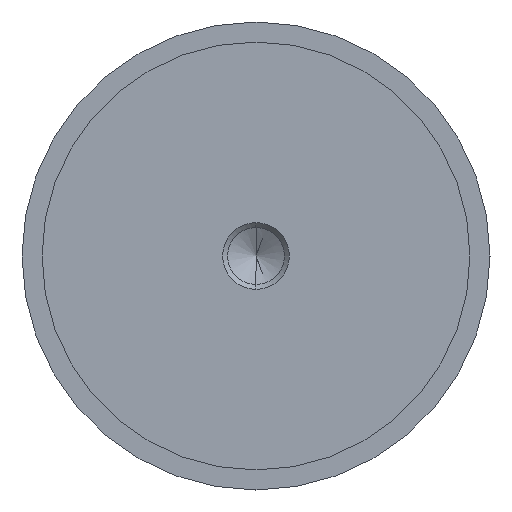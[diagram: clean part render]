
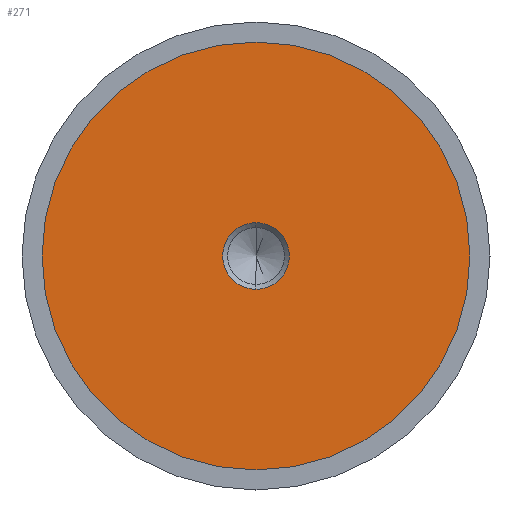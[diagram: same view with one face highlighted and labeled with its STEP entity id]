
A CAD part, left-side view. The second image highlights one B-rep face of the part: STEP entity #271.
In plain terms, the highlighted planar face has unit normal (-1, 0, 0).
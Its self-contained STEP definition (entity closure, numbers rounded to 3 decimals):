
#9 = ORIENTED_EDGE ( 'NONE', *, *, #734, .T. ) ;
#34 = CARTESIAN_POINT ( 'NONE',  ( -24.99, 0., 0. ) ) ;
#40 = CARTESIAN_POINT ( 'NONE',  ( -24.99, 0., -32. ) ) ;
#45 = EDGE_CURVE ( 'NONE', #307, #422, #603, .T. ) ;
#46 = DIRECTION ( 'NONE',  ( 0., 0., -1. ) ) ;
#91 = CARTESIAN_POINT ( 'NONE',  ( -24.99, 0., 0. ) ) ;
#112 = FACE_OUTER_BOUND ( 'NONE', #467, .T. ) ;
#134 = DIRECTION ( 'NONE',  ( 0., 0., -1. ) ) ;
#161 = ORIENTED_EDGE ( 'NONE', *, *, #767, .T. ) ;
#189 = PLANE ( 'NONE',  #642 ) ;
#212 = DIRECTION ( 'NONE',  ( 0., 0., 1. ) ) ;
#254 = EDGE_LOOP ( 'NONE', ( #9, #538 ) ) ;
#271 = ADVANCED_FACE ( 'NONE', ( #361, #112 ), #189, .F. ) ;
#285 = CARTESIAN_POINT ( 'NONE',  ( -24.99, 0., -4.99 ) ) ;
#307 = VERTEX_POINT ( 'NONE', #443 ) ;
#315 = CARTESIAN_POINT ( 'NONE',  ( -24.99, 0., 4.99 ) ) ;
#345 = CARTESIAN_POINT ( 'NONE',  ( -24.99, 32., 0. ) ) ;
#356 = CIRCLE ( 'NONE', #684, 32. ) ;
#361 = FACE_BOUND ( 'NONE', #254, .T. ) ;
#386 = CARTESIAN_POINT ( 'NONE',  ( -24.99, 0., 0. ) ) ;
#391 = DIRECTION ( 'NONE',  ( -1., 0., 0. ) ) ;
#392 = AXIS2_PLACEMENT_3D ( 'NONE', #34, #391, #764 ) ;
#416 = DIRECTION ( 'NONE',  ( 0., 0., -1. ) ) ;
#422 = VERTEX_POINT ( 'NONE', #40 ) ;
#434 = VERTEX_POINT ( 'NONE', #285 ) ;
#442 = DIRECTION ( 'NONE',  ( 1., 0., 0. ) ) ;
#443 = CARTESIAN_POINT ( 'NONE',  ( -24.99, 0., 32. ) ) ;
#449 = ORIENTED_EDGE ( 'NONE', *, *, #45, .T. ) ;
#450 = AXIS2_PLACEMENT_3D ( 'NONE', #386, #568, #416 ) ;
#453 = DIRECTION ( 'NONE',  ( -1., 0., 0. ) ) ;
#467 = EDGE_LOOP ( 'NONE', ( #449, #161 ) ) ;
#491 = AXIS2_PLACEMENT_3D ( 'NONE', #564, #442, #134 ) ;
#502 = CIRCLE ( 'NONE', #450, 4.99 ) ;
#538 = ORIENTED_EDGE ( 'NONE', *, *, #581, .T. ) ;
#564 = CARTESIAN_POINT ( 'NONE',  ( -24.99, 0., 0. ) ) ;
#568 = DIRECTION ( 'NONE',  ( 1., 0., 0. ) ) ;
#581 = EDGE_CURVE ( 'NONE', #434, #731, #502, .T. ) ;
#582 = DIRECTION ( 'NONE',  ( 1., 0., 0. ) ) ;
#603 = CIRCLE ( 'NONE', #392, 32. ) ;
#607 = CIRCLE ( 'NONE', #491, 4.99 ) ;
#642 = AXIS2_PLACEMENT_3D ( 'NONE', #345, #582, #46 ) ;
#684 = AXIS2_PLACEMENT_3D ( 'NONE', #91, #453, #212 ) ;
#731 = VERTEX_POINT ( 'NONE', #315 ) ;
#734 = EDGE_CURVE ( 'NONE', #731, #434, #607, .T. ) ;
#764 = DIRECTION ( 'NONE',  ( 0., 0., 1. ) ) ;
#767 = EDGE_CURVE ( 'NONE', #422, #307, #356, .T. ) ;
